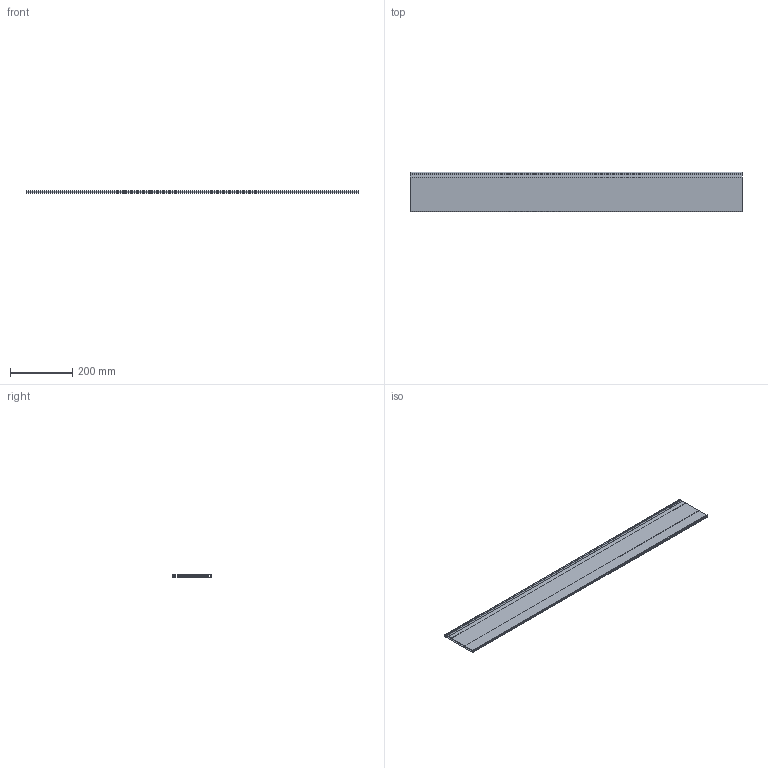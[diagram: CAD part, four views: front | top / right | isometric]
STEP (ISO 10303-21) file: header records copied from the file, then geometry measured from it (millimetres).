
FILE_DESCRIPTION (( 'STEP AP214' ), '1' );
FILE_NAME ('_Magic Optima Unterteilungsprofil DWD XP KAB 1200.step', '2010-08-17T12:26:42', ( 'grass' ), ( '' ), 'SwSTEP 2.0', 'SolidWorks 2010', '' );
FILE_SCHEMA (( 'AUTOMOTIVE_DESIGN' ));
Length unit declared in the file: millimetre
Products named in the file (1): _Magic Optima Unterteilungsprofil DWD XP  KAB 1200
Bounding box: 1066 x 127.7 x 8.1 mm (x, y, z)
Volume: 373657.9 mm3; surface area: 578684.8 mm2
Topology: 1 solids, 1 shells, 39 faces, 111 edges, 74 vertices
Faces by surface type: plane 22, cylinder 17
Entity records: 1325 total; most frequent: CARTESIAN_POINT 225, DIRECTION 225, ORIENTED_EDGE 222, EDGE_CURVE 111, VECTOR 77, LINE 77, AXIS2_PLACEMENT_3D 74, VERTEX_POINT 74
